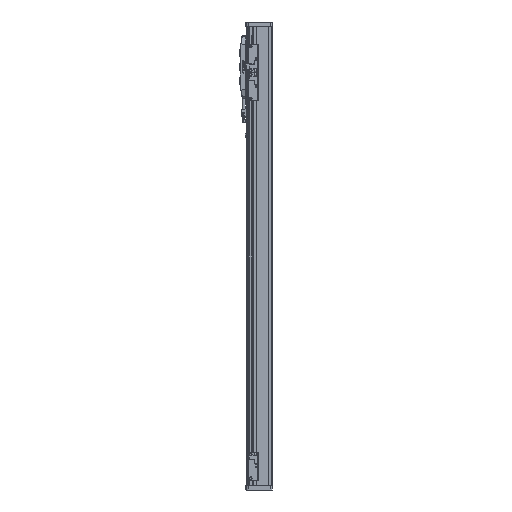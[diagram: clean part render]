
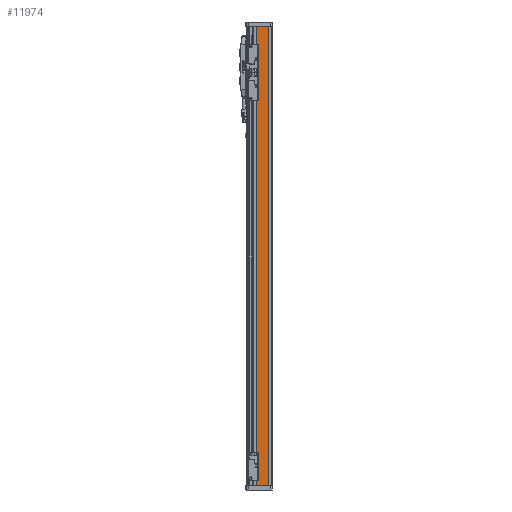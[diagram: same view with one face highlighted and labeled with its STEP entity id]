
A CAD part, left-side view. The second image highlights one B-rep face of the part: STEP entity #11974.
In plain terms, the highlighted planar face has unit normal (-1, 0, 0).
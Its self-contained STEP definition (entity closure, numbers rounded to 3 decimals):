
#152 = PLANE('',#153);
#153 = AXIS2_PLACEMENT_3D('',#154,#155,#156);
#154 = CARTESIAN_POINT('',(0.,0.,425.));
#155 = DIRECTION('',(-0.,0.,1.));
#156 = DIRECTION('',(1.,0.,0.));
#993 = PLANE('',#994);
#994 = AXIS2_PLACEMENT_3D('',#995,#996,#997);
#995 = CARTESIAN_POINT('',(0.,0.,-425.));
#996 = DIRECTION('',(-0.,0.,1.));
#997 = DIRECTION('',(1.,0.,0.));
#6259 = PLANE('',#6260);
#6260 = AXIS2_PLACEMENT_3D('',#6261,#6262,#6263);
#6261 = CARTESIAN_POINT('',(-27.5,-17.,420.));
#6262 = DIRECTION('',(-0.707,0.707,0.));
#6263 = DIRECTION('',(0.,0.,1.));
#6661 = VERTEX_POINT('',#6662);
#6662 = CARTESIAN_POINT('',(-27.1,4.6,425.));
#6676 = PLANE('',#6677);
#6677 = AXIS2_PLACEMENT_3D('',#6678,#6679,#6680);
#6678 = CARTESIAN_POINT('',(-27.1,4.6,420.));
#6679 = DIRECTION('',(-0.707,-0.707,0.));
#6680 = DIRECTION('',(0.,0.,1.));
#6688 = EDGE_CURVE('',#6661,#6689,#6691,.T.);
#6689 = VERTEX_POINT('',#6690);
#6690 = CARTESIAN_POINT('',(-27.1,-16.6,425.));
#6691 = SURFACE_CURVE('',#6692,(#6696,#6703),.PCURVE_S1.);
#6692 = LINE('',#6693,#6694);
#6693 = CARTESIAN_POINT('',(-27.1,8.,425.));
#6694 = VECTOR('',#6695,1.);
#6695 = DIRECTION('',(0.,-1.,0.));
#6696 = PCURVE('',#152,#6697);
#6697 = DEFINITIONAL_REPRESENTATION('',(#6698),#6702);
#6698 = LINE('',#6699,#6700);
#6699 = CARTESIAN_POINT('',(-27.1,8.));
#6700 = VECTOR('',#6701,1.);
#6701 = DIRECTION('',(0.,-1.));
#6702 = ( GEOMETRIC_REPRESENTATION_CONTEXT(2) 
PARAMETRIC_REPRESENTATION_CONTEXT() REPRESENTATION_CONTEXT('2D SPACE',''
  ) );
#6703 = PCURVE('',#6704,#6709);
#6704 = PLANE('',#6705);
#6705 = AXIS2_PLACEMENT_3D('',#6706,#6707,#6708);
#6706 = CARTESIAN_POINT('',(-27.1,8.,420.));
#6707 = DIRECTION('',(1.,0.,0.));
#6708 = DIRECTION('',(0.,1.,0.));
#6709 = DEFINITIONAL_REPRESENTATION('',(#6710),#6714);
#6710 = LINE('',#6711,#6712);
#6711 = CARTESIAN_POINT('',(0.,5.));
#6712 = VECTOR('',#6713,1.);
#6713 = DIRECTION('',(-1.,0.));
#6714 = ( GEOMETRIC_REPRESENTATION_CONTEXT(2) 
PARAMETRIC_REPRESENTATION_CONTEXT() REPRESENTATION_CONTEXT('2D SPACE',''
  ) );
#7728 = VERTEX_POINT('',#7729);
#7729 = CARTESIAN_POINT('',(-27.1,-16.6,-425.));
#7750 = EDGE_CURVE('',#7728,#7751,#7753,.T.);
#7751 = VERTEX_POINT('',#7752);
#7752 = CARTESIAN_POINT('',(-27.1,4.6,-425.));
#7753 = SURFACE_CURVE('',#7754,(#7758,#7765),.PCURVE_S1.);
#7754 = LINE('',#7755,#7756);
#7755 = CARTESIAN_POINT('',(-27.1,0.,-425.));
#7756 = VECTOR('',#7757,1.);
#7757 = DIRECTION('',(0.,1.,0.));
#7758 = PCURVE('',#993,#7759);
#7759 = DEFINITIONAL_REPRESENTATION('',(#7760),#7764);
#7760 = LINE('',#7761,#7762);
#7761 = CARTESIAN_POINT('',(-27.1,0.));
#7762 = VECTOR('',#7763,1.);
#7763 = DIRECTION('',(0.,1.));
#7764 = ( GEOMETRIC_REPRESENTATION_CONTEXT(2) 
PARAMETRIC_REPRESENTATION_CONTEXT() REPRESENTATION_CONTEXT('2D SPACE',''
  ) );
#7765 = PCURVE('',#6704,#7766);
#7766 = DEFINITIONAL_REPRESENTATION('',(#7767),#7771);
#7767 = LINE('',#7768,#7769);
#7768 = CARTESIAN_POINT('',(-8.,-845.));
#7769 = VECTOR('',#7770,1.);
#7770 = DIRECTION('',(1.,0.));
#7771 = ( GEOMETRIC_REPRESENTATION_CONTEXT(2) 
PARAMETRIC_REPRESENTATION_CONTEXT() REPRESENTATION_CONTEXT('2D SPACE',''
  ) );
#11974 = ADVANCED_FACE('',(#11975),#6704,.F.);
#11975 = FACE_BOUND('',#11976,.T.);
#11976 = EDGE_LOOP('',(#11977,#11978,#11999,#12000));
#11977 = ORIENTED_EDGE('',*,*,#6688,.F.);
#11978 = ORIENTED_EDGE('',*,*,#11979,.T.);
#11979 = EDGE_CURVE('',#6661,#7751,#11980,.T.);
#11980 = SURFACE_CURVE('',#11981,(#11985,#11992),.PCURVE_S1.);
#11981 = LINE('',#11982,#11983);
#11982 = CARTESIAN_POINT('',(-27.1,4.6,-420.));
#11983 = VECTOR('',#11984,1.);
#11984 = DIRECTION('',(0.,0.,-1.));
#11985 = PCURVE('',#6704,#11986);
#11986 = DEFINITIONAL_REPRESENTATION('',(#11987),#11991);
#11987 = LINE('',#11988,#11989);
#11988 = CARTESIAN_POINT('',(-3.4,-840.));
#11989 = VECTOR('',#11990,1.);
#11990 = DIRECTION('',(0.,-1.));
#11991 = ( GEOMETRIC_REPRESENTATION_CONTEXT(2) 
PARAMETRIC_REPRESENTATION_CONTEXT() REPRESENTATION_CONTEXT('2D SPACE',''
  ) );
#11992 = PCURVE('',#6676,#11993);
#11993 = DEFINITIONAL_REPRESENTATION('',(#11994),#11998);
#11994 = LINE('',#11995,#11996);
#11995 = CARTESIAN_POINT('',(-840.,0.));
#11996 = VECTOR('',#11997,1.);
#11997 = DIRECTION('',(-1.,0.));
#11998 = ( GEOMETRIC_REPRESENTATION_CONTEXT(2) 
PARAMETRIC_REPRESENTATION_CONTEXT() REPRESENTATION_CONTEXT('2D SPACE',''
  ) );
#11999 = ORIENTED_EDGE('',*,*,#7750,.F.);
#12000 = ORIENTED_EDGE('',*,*,#12001,.T.);
#12001 = EDGE_CURVE('',#7728,#6689,#12002,.T.);
#12002 = SURFACE_CURVE('',#12003,(#12007,#12014),.PCURVE_S1.);
#12003 = LINE('',#12004,#12005);
#12004 = CARTESIAN_POINT('',(-27.1,-16.6,420.));
#12005 = VECTOR('',#12006,1.);
#12006 = DIRECTION('',(0.,0.,1.));
#12007 = PCURVE('',#6704,#12008);
#12008 = DEFINITIONAL_REPRESENTATION('',(#12009),#12013);
#12009 = LINE('',#12010,#12011);
#12010 = CARTESIAN_POINT('',(-24.6,0.));
#12011 = VECTOR('',#12012,1.);
#12012 = DIRECTION('',(0.,1.));
#12013 = ( GEOMETRIC_REPRESENTATION_CONTEXT(2) 
PARAMETRIC_REPRESENTATION_CONTEXT() REPRESENTATION_CONTEXT('2D SPACE',''
  ) );
#12014 = PCURVE('',#6259,#12015);
#12015 = DEFINITIONAL_REPRESENTATION('',(#12016),#12020);
#12016 = LINE('',#12017,#12018);
#12017 = CARTESIAN_POINT('',(0.,0.566));
#12018 = VECTOR('',#12019,1.);
#12019 = DIRECTION('',(1.,0.));
#12020 = ( GEOMETRIC_REPRESENTATION_CONTEXT(2) 
PARAMETRIC_REPRESENTATION_CONTEXT() REPRESENTATION_CONTEXT('2D SPACE',''
  ) );
